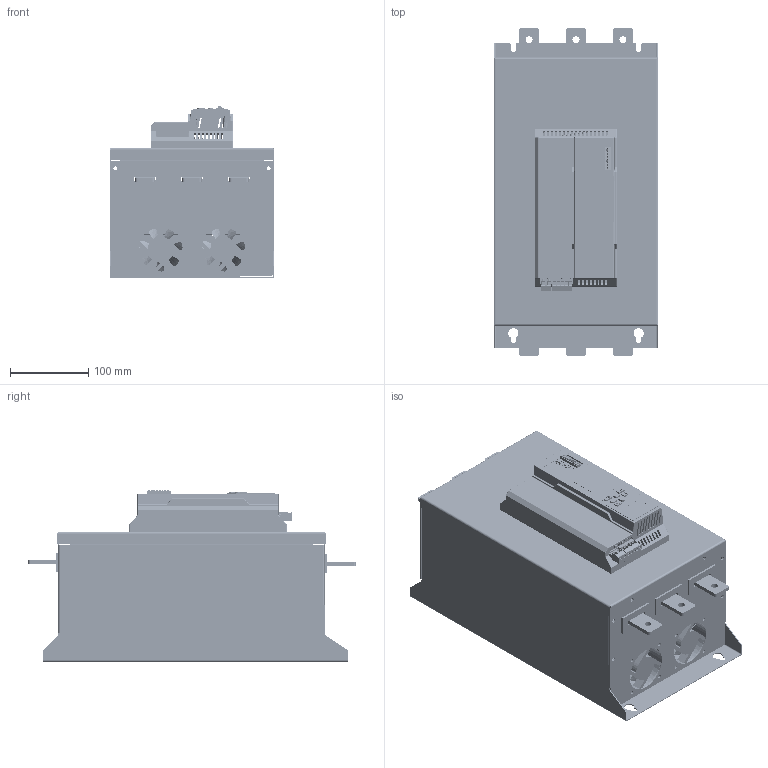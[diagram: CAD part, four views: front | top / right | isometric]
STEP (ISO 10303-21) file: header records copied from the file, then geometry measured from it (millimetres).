
FILE_DESCRIPTION((''),'2;1');
FILE_NAME('8800-90-115-000_ASM','2025-04-02T20:04:56',('13048'),(''),'CREO PARAMETRIC BY PTC INC, 2021063','CREO PARAMETRIC BY PTC INC, 2021063','');
FILE_SCHEMA(('AUTOMOTIVE_DESIGN { 1 0 10303 214 1 1 1 1 }'));
Products named in the file (89): 8800-90-115-00; 8800-90-115-_000; 413F3D_20201231_; COVER-SHANG_; DI-BAN_; JUE-YUAN-PIANG_; AK_; ____1_; ____2_; YA-KUAI__ASM; A_; PRT0001_; M_; YIA-BAN_; LUO-MU_; COVER-XIA_; 413F3D-250-300A0001_ASM; 8800-90-115-0004; 6000-000; 8800-90-110-0002; 8800-90-110-0003; 8800-90-110-0004; 8800-90-115-0003_ASM; 8800-90-115-000; 6025_0001; 6025_000; 6025-_AF0_ASM; 6025-_AF1_ASM; DUTOU-3HAO; 8800-90-115-0008; 8800-90-115-0009; 8800-90-115-0010; _RNM_000; 8800--18-37-PCB-2_1_1; 8800--18-37--128640001_1_1; _1D5-00-0001_1_1; _3D5-00-0001_1_1; _3D-00-0001_1_1; _3D5-6-0001_ASM_1_ASM_1_ASM; _RJ450001_6_1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
Assembly tree (150 placements, depth 8):
  8800-90-115-000_ASM
    8800-90-115-00
    8800-90-115-0003_ASM
      8800-90-115-_000
      413F3D-250-300A0001_ASM  x4
        413F3D_20201231_
        COVER-SHANG_
        DI-BAN_
        JUE-YUAN-PIANG_
        AK_
        YA-KUAI__ASM
          ____1_
          ____2_
        A_
        PRT0001_
        M_
        YIA-BAN_
        LUO-MU_
        COVER-XIA_
      8800-90-115-0004  x3
      6000-000
      8800-90-110-0002  x4
      8800-90-110-0003  x4
      8800-90-110-0004  x3
    8800-90-115-000
    6025-_AF0_ASM
      6025_0001
      6025_000
    6025-_AF1_ASM
      6025_0001
      6025_000
    8800-90-115-000
    8800-90-115-000
    DUTOU-3HAO  x6
    8800-90-115-0008
    8800-90-115-0009
    8800-90-115-0010  x3
    _RNM_000  x3
    360-18-37KW-000_ASM_ASM
      360-18-37KW-000_ASM_1_ASM
        8800-18-37KW-000_ASM_1_ASM_1_ASM
          8800--18-37-PCB-200_ASM_1_ASM_1_ASM
            8800--18-37-PCB-2_1_1
            8800--18-37--128640001_1_1
            _3D5-6-0001_ASM_1_ASM_1_ASM
              _1D5-00-0001_1_1
              _3D5-00-0001_1_1  x3
              _3D-00-0001_1_1  x3
            _RJ450001_6_1
            _6-6-8-0001_1_1  x7
            254-0001_1_1  x10
            _3D5-00-0001_1_1
            _3D-00-0001_1_1
          360-18-37-0001_ASM_1_ASM_1_ASM
            360-18-37-000_1-133115_1
            _3-10001_1_1
            360-0001_1_1  x3
            8800-508-7P--00_1_1
            _-2540001_1_ASM_1_ASM
              _-2540001_1_1_1
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Bounding box: 210.5 x 419.18 x 219.7 mm (x, y, z)
Volume: 2433847.3 mm3; surface area: 2187480.8 mm2
Topology: 218 solids, 218 shells, 13874 faces, 37054 edges, 24060 vertices
Faces by surface type: plane 9795, cylinder 3034, cone 622, extrusion 296, bspline 56, torus 47, sphere 24
Entity records: 251280 total; most frequent: CARTESIAN_POINT 40538, ORIENTED_EDGE 33478, DIRECTION 31214, EDGE_CURVE 16739, PRESENTATION_STYLE_ASSIGNMENT 15236, STYLED_ITEM 15067, CURVE_STYLE 14905, VECTOR 13550
